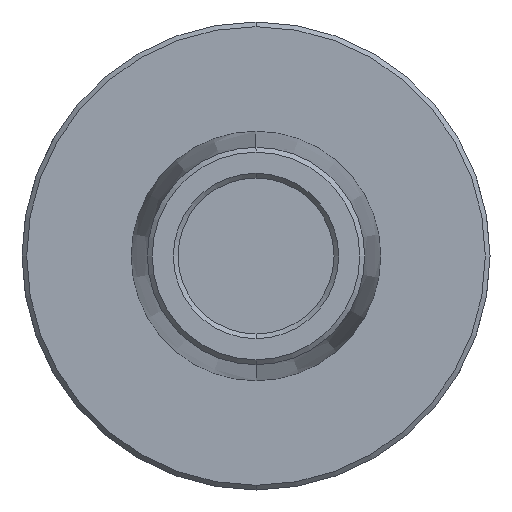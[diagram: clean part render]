
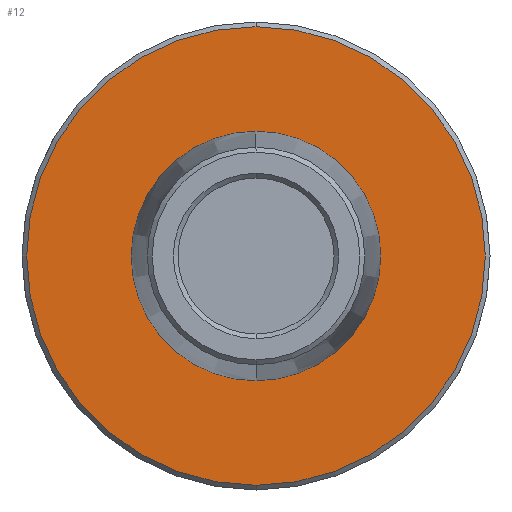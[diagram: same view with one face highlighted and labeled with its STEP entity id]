
A CAD part, front view. The second image highlights one B-rep face of the part: STEP entity #12.
In plain terms, the highlighted planar face has unit normal (0, -1, 0).
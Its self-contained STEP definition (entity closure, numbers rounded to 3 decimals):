
#12 = ADVANCED_FACE ( 'NONE', ( #158, #353 ), #113, .F. ) ;
#46 = VERTEX_POINT ( 'NONE', #186 ) ;
#66 = ORIENTED_EDGE ( 'NONE', *, *, #843, .T. ) ;
#92 = EDGE_CURVE ( 'NONE', #46, #496, #515, .T. ) ;
#113 = PLANE ( 'NONE',  #164 ) ;
#115 = CIRCLE ( 'NONE', #229, 14.7 ) ;
#118 = DIRECTION ( 'NONE',  ( 0., 0., 1. ) ) ;
#143 = CARTESIAN_POINT ( 'NONE',  ( 0., 0., 0. ) ) ;
#156 = EDGE_CURVE ( 'NONE', #1143, #924, #1085, .T. ) ;
#158 = FACE_OUTER_BOUND ( 'NONE', #448, .T. ) ;
#160 = DIRECTION ( 'NONE',  ( 0., -1., 0. ) ) ;
#164 = AXIS2_PLACEMENT_3D ( 'NONE', #540, #284, #1090 ) ;
#186 = CARTESIAN_POINT ( 'NONE',  ( 0., 0., -14.7 ) ) ;
#205 = DIRECTION ( 'NONE',  ( 0., 0., 1. ) ) ;
#218 = ORIENTED_EDGE ( 'NONE', *, *, #92, .T. ) ;
#229 = AXIS2_PLACEMENT_3D ( 'NONE', #705, #160, #786 ) ;
#284 = DIRECTION ( 'NONE',  ( 0., 1., 0. ) ) ;
#353 = FACE_BOUND ( 'NONE', #832, .T. ) ;
#432 = EDGE_CURVE ( 'NONE', #924, #1143, #809, .T. ) ;
#440 = ORIENTED_EDGE ( 'NONE', *, *, #432, .F. ) ;
#448 = EDGE_LOOP ( 'NONE', ( #66, #218 ) ) ;
#496 = VERTEX_POINT ( 'NONE', #612 ) ;
#503 = CARTESIAN_POINT ( 'NONE',  ( 0., 0., -8. ) ) ;
#515 = CIRCLE ( 'NONE', #681, 14.7 ) ;
#540 = CARTESIAN_POINT ( 'NONE',  ( 0., 0., 0. ) ) ;
#581 = DIRECTION ( 'NONE',  ( 0., -1., 0. ) ) ;
#585 = CARTESIAN_POINT ( 'NONE',  ( 0., 0., 0. ) ) ;
#612 = CARTESIAN_POINT ( 'NONE',  ( 0., 0., 14.7 ) ) ;
#681 = AXIS2_PLACEMENT_3D ( 'NONE', #1111, #581, #205 ) ;
#690 = DIRECTION ( 'NONE',  ( 0., -1., 0. ) ) ;
#705 = CARTESIAN_POINT ( 'NONE',  ( 0., 0., 0. ) ) ;
#735 = AXIS2_PLACEMENT_3D ( 'NONE', #585, #752, #118 ) ;
#752 = DIRECTION ( 'NONE',  ( 0., -1., 0. ) ) ;
#786 = DIRECTION ( 'NONE',  ( 0., 0., 1. ) ) ;
#809 = CIRCLE ( 'NONE', #1068, 8. ) ;
#832 = EDGE_LOOP ( 'NONE', ( #1025, #440 ) ) ;
#843 = EDGE_CURVE ( 'NONE', #496, #46, #115, .T. ) ;
#886 = CARTESIAN_POINT ( 'NONE',  ( 0., 0., 8. ) ) ;
#924 = VERTEX_POINT ( 'NONE', #886 ) ;
#957 = DIRECTION ( 'NONE',  ( 0., 0., 1. ) ) ;
#1025 = ORIENTED_EDGE ( 'NONE', *, *, #156, .F. ) ;
#1068 = AXIS2_PLACEMENT_3D ( 'NONE', #143, #690, #957 ) ;
#1085 = CIRCLE ( 'NONE', #735, 8. ) ;
#1090 = DIRECTION ( 'NONE',  ( 0., 0., 1. ) ) ;
#1111 = CARTESIAN_POINT ( 'NONE',  ( 0., 0., 0. ) ) ;
#1143 = VERTEX_POINT ( 'NONE', #503 ) ;
